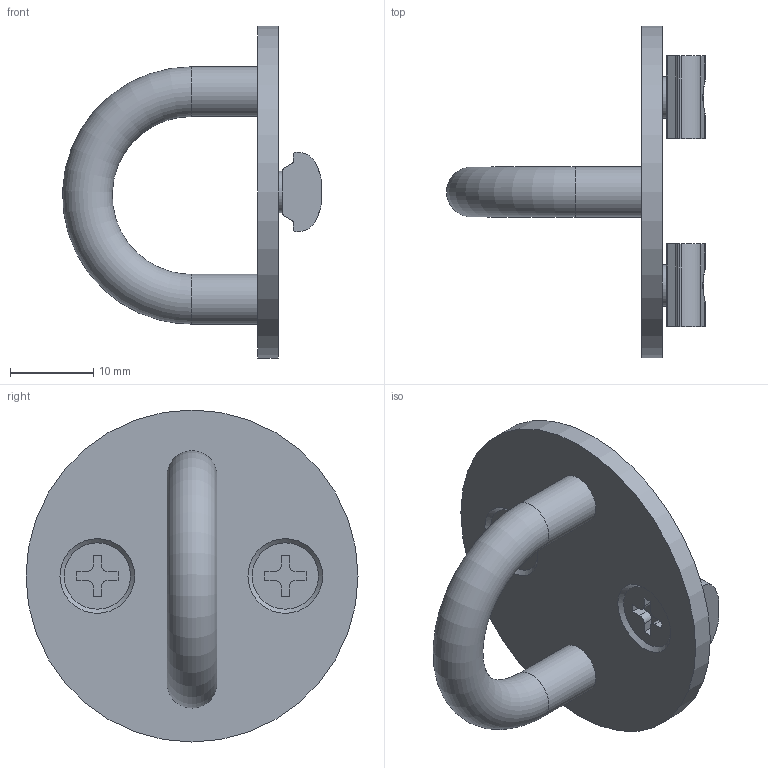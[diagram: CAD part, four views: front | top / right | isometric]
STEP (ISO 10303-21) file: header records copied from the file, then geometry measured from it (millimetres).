
FILE_DESCRIPTION(('STEP AP214'),'1');
FILE_NAME('RI6-25B.stp','2017-03-03T08:35:08',(' '),(' '),'Spatial InterOp 3D',' ',' ');
FILE_SCHEMA(('automotive_design'));
Length unit declared in the file: millimetre
Products named in the file (6): RI6-25B; M5*7小頭皿ﾈｼﾞ; NF25-M5; RI6-B
Assembly tree (5 placements, depth 2):
  RI6-25B
    M5*7小頭皿ﾈｼﾞ
    NF25-M5
    M5*7小頭皿ﾈｼﾞ
    NF25-M5
    RI6-B
Bounding box: 31.19 x 40 x 40 mm (x, y, z)
Volume: 5342.3 mm3; surface area: 4909.6 mm2
Topology: 5 solids, 5 shells, 104 faces, 277 edges, 183 vertices
Faces by surface type: plane 58, cylinder 41, cone 4, torus 1
Full cylindrical faces by diameter (mm): 5 x4, 6 x4, 40 x1
Entity records: 4151 total; most frequent: CARTESIAN_POINT 590, DIRECTION 556, ORIENTED_EDGE 520, EDGE_CURVE 260, AXIS2_PLACEMENT_3D 194, VERTEX_POINT 180, LINE 168, VECTOR 168
